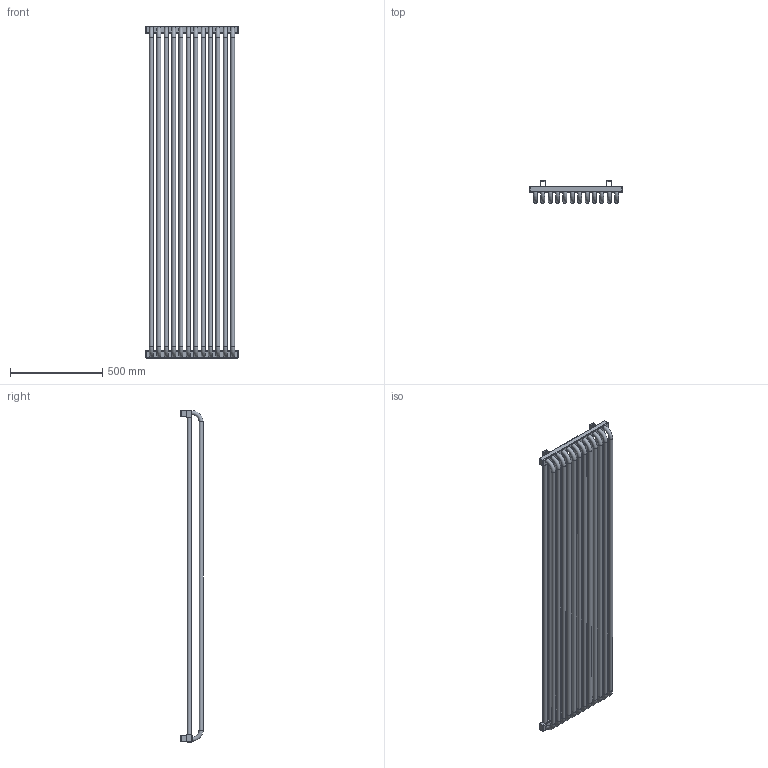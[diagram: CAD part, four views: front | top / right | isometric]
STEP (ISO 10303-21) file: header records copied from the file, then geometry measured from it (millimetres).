
FILE_DESCRIPTION((''),'2;1');
FILE_NAME('Z:\R\G\P\RGPH10 - Grzejnik Delfin\Work\Inventor\Marketing\STEP\DF-18-50-ZX.stp','2012-07-25T10:38:36',('PioRo'),(''),'Autodesk Inventor 2012','Autodesk Inventor 2012','');
FILE_SCHEMA(('AUTOMOTIVE_DESIGN { 1 0 10303 214 1 1 1 1 }'));
Length unit declared in the file: millimetre
Products named in the file (1): Część2
Bounding box: 500 x 120 x 1800 mm (x, y, z)
Volume: 17372315.9 mm3; surface area: 3086863.7 mm2
Topology: 5 solids, 5 shells, 222 faces, 557 edges, 342 vertices
Faces by surface type: plane 103, cylinder 79, torus 40
Full cylindrical faces by diameter (mm): 0.1 x4, 18.631 x3, 22 x24
Entity records: 8157 total; most frequent: CARTESIAN_POINT 2627, DIRECTION 1098, ORIENTED_EDGE 1004, EDGE_CURVE 502, AXIS2_PLACEMENT_3D 397, VERTEX_POINT 342, EDGE_LOOP 328, VECTOR 304
